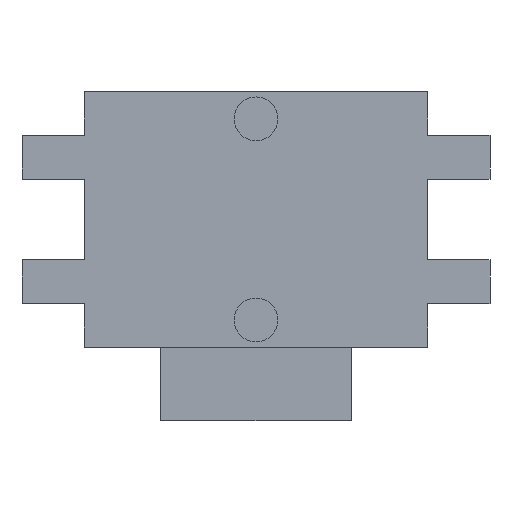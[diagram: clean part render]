
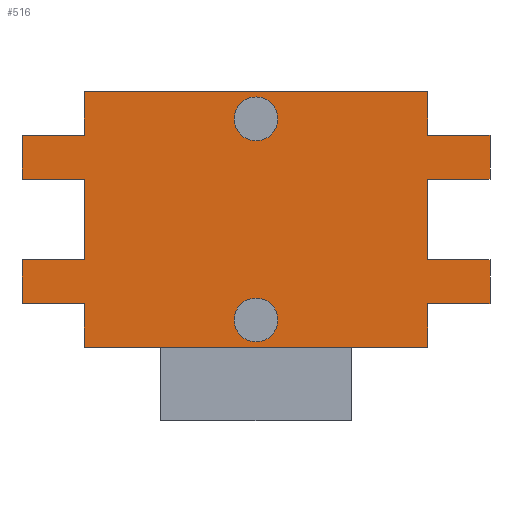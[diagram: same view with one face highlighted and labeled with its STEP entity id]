
A CAD part, front view. The second image highlights one B-rep face of the part: STEP entity #516.
In plain terms, the highlighted planar face has unit normal (0, -1, 0).
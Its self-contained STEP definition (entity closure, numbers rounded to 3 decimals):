
#1=CARTESIAN_POINT('',(0.,0.,-3.125));
#2=DIRECTION('',(0.,-1.,0.));
#3=DIRECTION('',(-1.,0.,0.));
#4=AXIS2_PLACEMENT_3D('',#1,#2,#3);
#6=CARTESIAN_POINT('',(0.,0.,-3.125));
#7=DIRECTION('',(0.,-1.,0.));
#8=DIRECTION('',(1.,0.,0.));
#9=AXIS2_PLACEMENT_3D('',#6,#7,#8);
#11=CARTESIAN_POINT('',(0.,0.,-0.375));
#12=DIRECTION('',(0.,-1.,0.));
#13=DIRECTION('',(-1.,0.,0.));
#14=AXIS2_PLACEMENT_3D('',#11,#12,#13);
#16=CARTESIAN_POINT('',(0.,0.,-0.375));
#17=DIRECTION('',(0.,-1.,0.));
#18=DIRECTION('',(1.,0.,0.));
#19=AXIS2_PLACEMENT_3D('',#16,#17,#18);
#21=DIRECTION('',(0.,0.,-1.));
#22=VECTOR('',#21,1.1);
#23=CARTESIAN_POINT('',(2.35,0.,-1.2));
#24=LINE('',#23,#22);
#25=DIRECTION('',(1.,0.,0.));
#26=VECTOR('',#25,0.85);
#27=CARTESIAN_POINT('',(2.35,0.,-2.3));
#28=LINE('',#27,#26);
#29=DIRECTION('',(0.,0.,-1.));
#30=VECTOR('',#29,0.6);
#31=CARTESIAN_POINT('',(3.2,0.,-2.3));
#32=LINE('',#31,#30);
#33=DIRECTION('',(-1.,0.,0.));
#34=VECTOR('',#33,0.85);
#35=CARTESIAN_POINT('',(3.2,0.,-2.9));
#36=LINE('',#35,#34);
#37=DIRECTION('',(0.,0.,-1.));
#38=VECTOR('',#37,0.6);
#39=CARTESIAN_POINT('',(2.35,0.,-2.9));
#40=LINE('',#39,#38);
#41=DIRECTION('',(-1.,0.,0.));
#42=VECTOR('',#41,4.7);
#43=CARTESIAN_POINT('',(2.35,0.,-3.5));
#44=LINE('',#43,#42);
#45=DIRECTION('',(0.,0.,1.));
#46=VECTOR('',#45,0.6);
#47=CARTESIAN_POINT('',(-2.35,0.,-3.5));
#48=LINE('',#47,#46);
#49=DIRECTION('',(-1.,0.,0.));
#50=VECTOR('',#49,0.85);
#51=CARTESIAN_POINT('',(-2.35,0.,-2.9));
#52=LINE('',#51,#50);
#53=DIRECTION('',(0.,0.,1.));
#54=VECTOR('',#53,0.6);
#55=CARTESIAN_POINT('',(-3.2,0.,-2.9));
#56=LINE('',#55,#54);
#57=DIRECTION('',(1.,0.,0.));
#58=VECTOR('',#57,0.85);
#59=CARTESIAN_POINT('',(-3.2,0.,-2.3));
#60=LINE('',#59,#58);
#61=DIRECTION('',(0.,0.,1.));
#62=VECTOR('',#61,1.1);
#63=CARTESIAN_POINT('',(-2.35,0.,-2.3));
#64=LINE('',#63,#62);
#65=DIRECTION('',(-1.,0.,0.));
#66=VECTOR('',#65,0.85);
#67=CARTESIAN_POINT('',(-2.35,0.,-1.2));
#68=LINE('',#67,#66);
#69=DIRECTION('',(0.,0.,1.));
#70=VECTOR('',#69,0.6);
#71=CARTESIAN_POINT('',(-3.2,0.,-1.2));
#72=LINE('',#71,#70);
#73=DIRECTION('',(1.,0.,0.));
#74=VECTOR('',#73,0.85);
#75=CARTESIAN_POINT('',(-3.2,0.,-0.6));
#76=LINE('',#75,#74);
#77=DIRECTION('',(0.,0.,1.));
#78=VECTOR('',#77,0.6);
#79=CARTESIAN_POINT('',(-2.35,0.,-0.6));
#80=LINE('',#79,#78);
#81=DIRECTION('',(1.,0.,0.));
#82=VECTOR('',#81,4.7);
#83=CARTESIAN_POINT('',(-2.35,0.,0.));
#84=LINE('',#83,#82);
#85=DIRECTION('',(0.,0.,-1.));
#86=VECTOR('',#85,0.6);
#87=CARTESIAN_POINT('',(2.35,0.,0.));
#88=LINE('',#87,#86);
#89=DIRECTION('',(1.,0.,0.));
#90=VECTOR('',#89,0.85);
#91=CARTESIAN_POINT('',(2.35,0.,-0.6));
#92=LINE('',#91,#90);
#93=DIRECTION('',(0.,0.,-1.));
#94=VECTOR('',#93,0.6);
#95=CARTESIAN_POINT('',(3.2,0.,-0.6));
#96=LINE('',#95,#94);
#97=DIRECTION('',(-1.,0.,0.));
#98=VECTOR('',#97,0.85);
#99=CARTESIAN_POINT('',(3.2,0.,-1.2));
#100=LINE('',#99,#98);
#345=CARTESIAN_POINT('',(-2.35,0.,0.));
#346=CARTESIAN_POINT('',(2.35,0.,0.));
#347=VERTEX_POINT('',#345);
#348=VERTEX_POINT('',#346);
#349=CARTESIAN_POINT('',(2.35,0.,-3.5));
#350=CARTESIAN_POINT('',(-2.35,0.,-3.5));
#351=VERTEX_POINT('',#349);
#352=VERTEX_POINT('',#350);
#385=CARTESIAN_POINT('',(-0.3,0.,-3.125));
#386=CARTESIAN_POINT('',(0.3,0.,-3.125));
#387=VERTEX_POINT('',#385);
#388=VERTEX_POINT('',#386);
#389=CARTESIAN_POINT('',(-0.3,0.,-0.375));
#390=CARTESIAN_POINT('',(0.3,0.,-0.375));
#391=VERTEX_POINT('',#389);
#392=VERTEX_POINT('',#390);
#393=CARTESIAN_POINT('',(3.2,0.,-0.6));
#394=CARTESIAN_POINT('',(3.2,0.,-1.2));
#395=VERTEX_POINT('',#393);
#396=VERTEX_POINT('',#394);
#397=CARTESIAN_POINT('',(-3.2,0.,-1.2));
#398=CARTESIAN_POINT('',(-3.2,0.,-0.6));
#399=VERTEX_POINT('',#397);
#400=VERTEX_POINT('',#398);
#401=CARTESIAN_POINT('',(-3.2,0.,-2.9));
#402=CARTESIAN_POINT('',(-3.2,0.,-2.3));
#403=VERTEX_POINT('',#401);
#404=VERTEX_POINT('',#402);
#405=CARTESIAN_POINT('',(3.2,0.,-2.3));
#406=CARTESIAN_POINT('',(3.2,0.,-2.9));
#407=VERTEX_POINT('',#405);
#408=VERTEX_POINT('',#406);
#433=CARTESIAN_POINT('',(2.35,0.,-0.6));
#434=VERTEX_POINT('',#433);
#435=CARTESIAN_POINT('',(2.35,0.,-1.2));
#436=VERTEX_POINT('',#435);
#437=CARTESIAN_POINT('',(2.35,0.,-2.3));
#438=VERTEX_POINT('',#437);
#439=CARTESIAN_POINT('',(2.35,0.,-2.9));
#440=VERTEX_POINT('',#439);
#449=CARTESIAN_POINT('',(-2.35,0.,-1.2));
#450=VERTEX_POINT('',#449);
#451=CARTESIAN_POINT('',(-2.35,0.,-0.6));
#452=VERTEX_POINT('',#451);
#453=CARTESIAN_POINT('',(-2.35,0.,-2.9));
#454=VERTEX_POINT('',#453);
#455=CARTESIAN_POINT('',(-2.35,0.,-2.3));
#456=VERTEX_POINT('',#455);
#457=CARTESIAN_POINT('',(0.,0.,0.));
#458=DIRECTION('',(0.,1.,0.));
#459=DIRECTION('',(1.,0.,0.));
#460=AXIS2_PLACEMENT_3D('',#457,#458,#459);
#461=PLANE('',#460);
#463=ORIENTED_EDGE('',*,*,#462,.T.);
#465=ORIENTED_EDGE('',*,*,#464,.T.);
#467=ORIENTED_EDGE('',*,*,#466,.T.);
#469=ORIENTED_EDGE('',*,*,#468,.T.);
#471=ORIENTED_EDGE('',*,*,#470,.T.);
#473=ORIENTED_EDGE('',*,*,#472,.T.);
#475=ORIENTED_EDGE('',*,*,#474,.T.);
#477=ORIENTED_EDGE('',*,*,#476,.T.);
#479=ORIENTED_EDGE('',*,*,#478,.T.);
#481=ORIENTED_EDGE('',*,*,#480,.T.);
#483=ORIENTED_EDGE('',*,*,#482,.T.);
#485=ORIENTED_EDGE('',*,*,#484,.T.);
#487=ORIENTED_EDGE('',*,*,#486,.T.);
#489=ORIENTED_EDGE('',*,*,#488,.T.);
#491=ORIENTED_EDGE('',*,*,#490,.T.);
#493=ORIENTED_EDGE('',*,*,#492,.T.);
#495=ORIENTED_EDGE('',*,*,#494,.T.);
#497=ORIENTED_EDGE('',*,*,#496,.T.);
#499=ORIENTED_EDGE('',*,*,#498,.T.);
#501=ORIENTED_EDGE('',*,*,#500,.T.);
#502=EDGE_LOOP('',(#463,#465,#467,#469,#471,#473,#475,#477,#479,#481,#483,#485,
#487,#489,#491,#493,#495,#497,#499,#501));
#503=FACE_OUTER_BOUND('',#502,.F.);
#505=ORIENTED_EDGE('',*,*,#504,.T.);
#507=ORIENTED_EDGE('',*,*,#506,.T.);
#508=EDGE_LOOP('',(#505,#507));
#509=FACE_BOUND('',#508,.F.);
#511=ORIENTED_EDGE('',*,*,#510,.T.);
#513=ORIENTED_EDGE('',*,*,#512,.T.);
#514=EDGE_LOOP('',(#511,#513));
#515=FACE_BOUND('',#514,.F.);
#516=ADVANCED_FACE('',(#503,#509,#515),#461,.F.);
#5=CIRCLE('',#4,0.3);
#10=CIRCLE('',#9,0.3);
#15=CIRCLE('',#14,0.3);
#20=CIRCLE('',#19,0.3);
#462=EDGE_CURVE('',#436,#438,#24,.T.);
#464=EDGE_CURVE('',#438,#407,#28,.T.);
#466=EDGE_CURVE('',#407,#408,#32,.T.);
#468=EDGE_CURVE('',#408,#440,#36,.T.);
#470=EDGE_CURVE('',#440,#351,#40,.T.);
#472=EDGE_CURVE('',#351,#352,#44,.T.);
#474=EDGE_CURVE('',#352,#454,#48,.T.);
#476=EDGE_CURVE('',#454,#403,#52,.T.);
#478=EDGE_CURVE('',#403,#404,#56,.T.);
#480=EDGE_CURVE('',#404,#456,#60,.T.);
#482=EDGE_CURVE('',#456,#450,#64,.T.);
#484=EDGE_CURVE('',#450,#399,#68,.T.);
#486=EDGE_CURVE('',#399,#400,#72,.T.);
#488=EDGE_CURVE('',#400,#452,#76,.T.);
#490=EDGE_CURVE('',#452,#347,#80,.T.);
#492=EDGE_CURVE('',#347,#348,#84,.T.);
#494=EDGE_CURVE('',#348,#434,#88,.T.);
#496=EDGE_CURVE('',#434,#395,#92,.T.);
#498=EDGE_CURVE('',#395,#396,#96,.T.);
#500=EDGE_CURVE('',#396,#436,#100,.T.);
#504=EDGE_CURVE('',#387,#388,#5,.T.);
#506=EDGE_CURVE('',#388,#387,#10,.T.);
#510=EDGE_CURVE('',#391,#392,#15,.T.);
#512=EDGE_CURVE('',#392,#391,#20,.T.);
